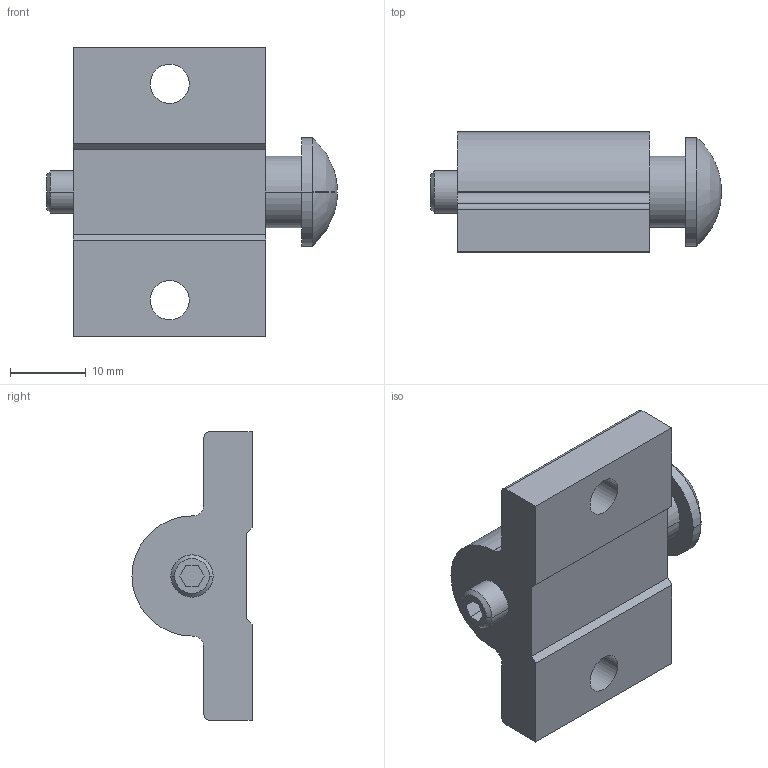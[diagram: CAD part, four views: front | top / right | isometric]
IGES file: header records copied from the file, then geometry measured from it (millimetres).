
Start section:  PTC IGES file: ss90-3d.igs
Global section: file name: ss90-3d.igs; native system: Pro/ENGINEER by Parametric Technology Corporation; preprocessor: 2002350; author: chant; organization: Unknown; date: 061026.132344; units: inch
Bounding box: 38.41 x 15.85 x 38.1 mm (x, y, z)
Surface area: 4924.7 mm2 (no closed solid volume)
Topology: 0 solids, 0 shells, 52 faces, 356 edges, 442 vertices
Faces by surface type: revolution 27, bspline 25
